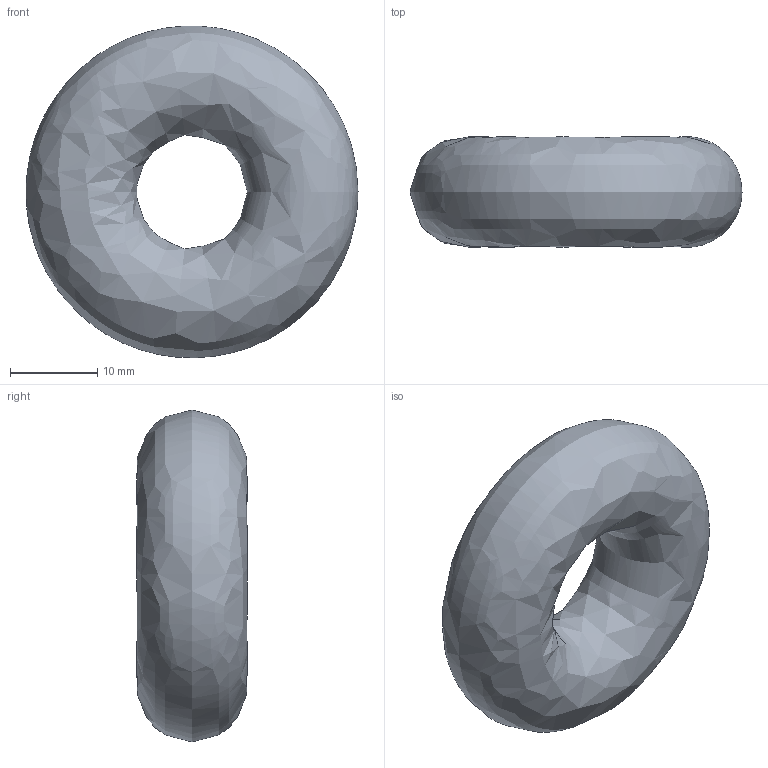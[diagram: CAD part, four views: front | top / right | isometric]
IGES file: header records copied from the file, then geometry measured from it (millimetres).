
Global section: file name: 128-005.IGS; native system: {unknown}; preprocessor: {unknown}; author:  Dennette@WiZ-WORX.com; organization:  www.IGES5x.org; date: 19970830.165457; units: inch
Bounding box: 38.08 x 12.69 x 38.04 mm (x, y, z)
Surface area: 3185.6 mm2 (no closed solid volume)
Topology: 0 solids, 0 shells, 1 faces, 3 edges, 2 vertices
Faces by surface type: bspline 1
